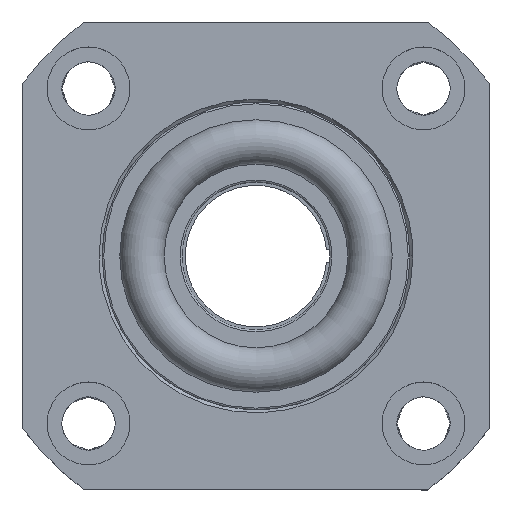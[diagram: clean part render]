
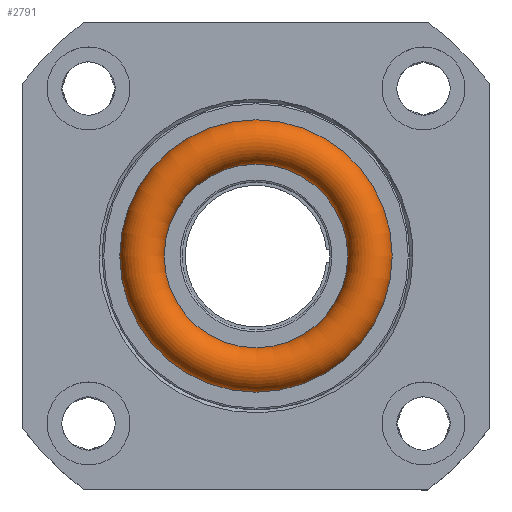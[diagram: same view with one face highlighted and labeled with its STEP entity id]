
A CAD part, top view. The second image highlights one B-rep face of the part: STEP entity #2791.
In plain terms, the highlighted toroidal (fillet/blend) face has major radius 19.25 mm and minor radius 3.75 mm.
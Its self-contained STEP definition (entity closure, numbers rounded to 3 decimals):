
#93 = CIRCLE ( 'NONE', #1940, 23. ) ;
#134 = DIRECTION ( 'NONE',  ( 0., 0., 1. ) ) ;
#179 = EDGE_LOOP ( 'NONE', ( #1027 ) ) ;
#198 = EDGE_CURVE ( 'NONE', #2594, #2594, #3254, .T. ) ;
#444 = CARTESIAN_POINT ( 'NONE',  ( -3.5, 0., 15.5 ) ) ;
#458 = CARTESIAN_POINT ( 'NONE',  ( -3.5, 0., 0. ) ) ;
#579 = FACE_OUTER_BOUND ( 'NONE', #3928, .T. ) ;
#768 = DIRECTION ( 'NONE',  ( 0., 0., 1. ) ) ;
#1027 = ORIENTED_EDGE ( 'NONE', *, *, #198, .F. ) ;
#1251 = CARTESIAN_POINT ( 'NONE',  ( -3.5, 0., 0. ) ) ;
#1264 = DIRECTION ( 'NONE',  ( -1., 0., 0. ) ) ;
#1294 = AXIS2_PLACEMENT_3D ( 'NONE', #3234, #2607, #134 ) ;
#1351 = DIRECTION ( 'NONE',  ( 0., 0., 1. ) ) ;
#1493 = FACE_OUTER_BOUND ( 'NONE', #179, .T. ) ;
#1940 = AXIS2_PLACEMENT_3D ( 'NONE', #458, #2626, #768 ) ;
#2048 = CARTESIAN_POINT ( 'NONE',  ( -3.5, 0., 23. ) ) ;
#2324 = TOROIDAL_SURFACE ( 'NONE', #1294, 19.25, 3.75 ) ;
#2412 = ORIENTED_EDGE ( 'NONE', *, *, #3597, .T. ) ;
#2594 = VERTEX_POINT ( 'NONE', #444 ) ;
#2607 = DIRECTION ( 'NONE',  ( -1., 0., 0. ) ) ;
#2626 = DIRECTION ( 'NONE',  ( -1., 0., 0. ) ) ;
#2791 = ADVANCED_FACE ( 'NONE', ( #1493, #579 ), #2324, .T. ) ;
#2894 = AXIS2_PLACEMENT_3D ( 'NONE', #1251, #1264, #1351 ) ;
#3234 = CARTESIAN_POINT ( 'NONE',  ( -3.5, 0., 0. ) ) ;
#3254 = CIRCLE ( 'NONE', #2894, 15.5 ) ;
#3597 = EDGE_CURVE ( 'NONE', #3744, #3744, #93, .T. ) ;
#3744 = VERTEX_POINT ( 'NONE', #2048 ) ;
#3928 = EDGE_LOOP ( 'NONE', ( #2412 ) ) ;
